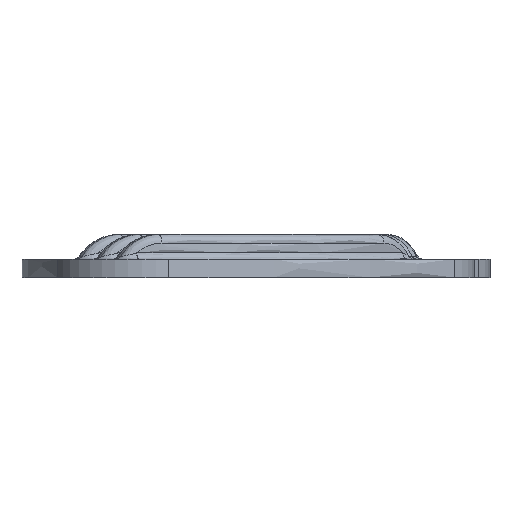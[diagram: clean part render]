
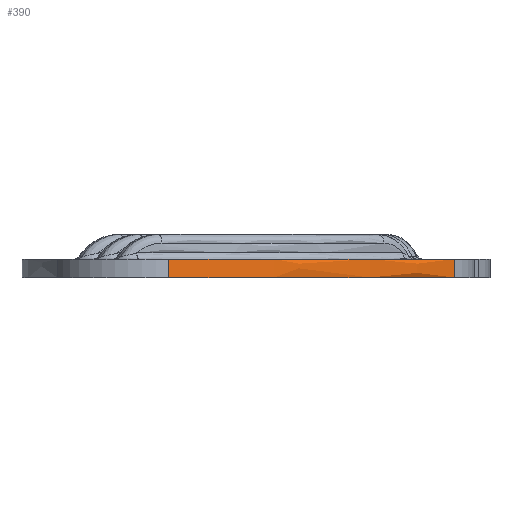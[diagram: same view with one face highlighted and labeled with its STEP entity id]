
A CAD part, front view. The second image highlights one B-rep face of the part: STEP entity #390.
In plain terms, the highlighted face is a extrusion surface.
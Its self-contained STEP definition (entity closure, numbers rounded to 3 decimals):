
#232=SURFACE_OF_LINEAR_EXTRUSION('',#734,#648);
#242=FACE_OUTER_BOUND('',#939,.T.);
#390=ADVANCED_FACE('',(#242),#232,.F.);
#582=LINE('',#3809,#646);
#583=LINE('',#3810,#647);
#646=VECTOR('',#2744,1.);
#647=VECTOR('',#2745,1.);
#648=VECTOR('',#2746,1.);
#686=B_SPLINE_CURVE_WITH_KNOTS('',3,(#3074,#3075,#3076,#3077,#3078,#3079,
#3080,#3081,#3082),.UNSPECIFIED.,.F.,.F.,(4,1,3,1,4),(0.,0.24,
0.537,0.859,1.),.UNSPECIFIED.);
#697=B_SPLINE_CURVE_WITH_KNOTS('',3,(#3245,#3246,#3247,#3248,#3249,#3250,
#3251,#3252,#3253),.UNSPECIFIED.,.F.,.F.,(4,1,3,1,4),(0.,0.24,
0.537,0.859,1.),.UNSPECIFIED.);
#734=B_SPLINE_CURVE_WITH_KNOTS('',3,(#3811,#3812,#3813,#3814,#3815,#3816,
#3817,#3818,#3819),.UNSPECIFIED.,.F.,.F.,(4,1,3,1,4),(0.,0.24,
0.537,0.859,1.),.UNSPECIFIED.);
#939=EDGE_LOOP('',(#1208,#1209,#1210,#1211));
#1208=ORIENTED_EDGE('',*,*,#2026,.F.);
#1209=ORIENTED_EDGE('',*,*,#2119,.T.);
#1210=ORIENTED_EDGE('',*,*,#2049,.T.);
#1211=ORIENTED_EDGE('',*,*,#2120,.T.);
#1811=VERTEX_POINT('',#3073);
#1812=VERTEX_POINT('',#3083);
#1834=VERTEX_POINT('',#3244);
#1835=VERTEX_POINT('',#3254);
#2026=EDGE_CURVE('',#1811,#1812,#686,.T.);
#2049=EDGE_CURVE('',#1835,#1834,#697,.T.);
#2119=EDGE_CURVE('',#1811,#1835,#582,.T.);
#2120=EDGE_CURVE('',#1834,#1812,#583,.T.);
#2744=DIRECTION('',(0.,0.,1.));
#2745=DIRECTION('',(0.,0.,-1.));
#2746=DIRECTION('',(0.,0.,1.));
#3073=CARTESIAN_POINT('',(171.051,4.677,37.238));
#3074=CARTESIAN_POINT('',(174.642,8.833,37.238));
#3075=CARTESIAN_POINT('',(172.654,6.299,37.238));
#3076=CARTESIAN_POINT('',(167.697,0.957,37.238));
#3077=CARTESIAN_POINT('',(161.814,-3.366,37.238));
#3078=CARTESIAN_POINT('',(158.386,-5.381,37.238));
#3079=CARTESIAN_POINT('',(154.427,-7.709,37.238));
#3080=CARTESIAN_POINT('',(148.561,-10.54,37.238));
#3081=CARTESIAN_POINT('',(142.641,-12.139,37.238));
#3082=CARTESIAN_POINT('',(140.835,-12.496,37.238));
#3083=CARTESIAN_POINT('',(147.806,-10.499,37.238));
#3244=CARTESIAN_POINT('',(147.806,-10.499,38.738));
#3245=CARTESIAN_POINT('',(174.642,8.833,38.738));
#3246=CARTESIAN_POINT('',(172.654,6.299,38.738));
#3247=CARTESIAN_POINT('',(167.697,0.957,38.738));
#3248=CARTESIAN_POINT('',(161.814,-3.366,38.738));
#3249=CARTESIAN_POINT('',(158.386,-5.381,38.738));
#3250=CARTESIAN_POINT('',(154.427,-7.709,38.738));
#3251=CARTESIAN_POINT('',(148.561,-10.54,38.738));
#3252=CARTESIAN_POINT('',(142.641,-12.139,38.738));
#3253=CARTESIAN_POINT('',(140.835,-12.496,38.738));
#3254=CARTESIAN_POINT('',(171.051,4.677,38.738));
#3809=CARTESIAN_POINT('',(171.051,4.677,37.238));
#3810=CARTESIAN_POINT('',(147.806,-10.499,38.738));
#3811=CARTESIAN_POINT('',(174.642,8.833,37.238));
#3812=CARTESIAN_POINT('',(172.654,6.299,37.238));
#3813=CARTESIAN_POINT('',(167.697,0.957,37.238));
#3814=CARTESIAN_POINT('',(161.814,-3.366,37.238));
#3815=CARTESIAN_POINT('',(158.386,-5.381,37.238));
#3816=CARTESIAN_POINT('',(154.427,-7.709,37.238));
#3817=CARTESIAN_POINT('',(148.561,-10.54,37.238));
#3818=CARTESIAN_POINT('',(142.641,-12.139,37.238));
#3819=CARTESIAN_POINT('',(140.835,-12.496,37.238));
